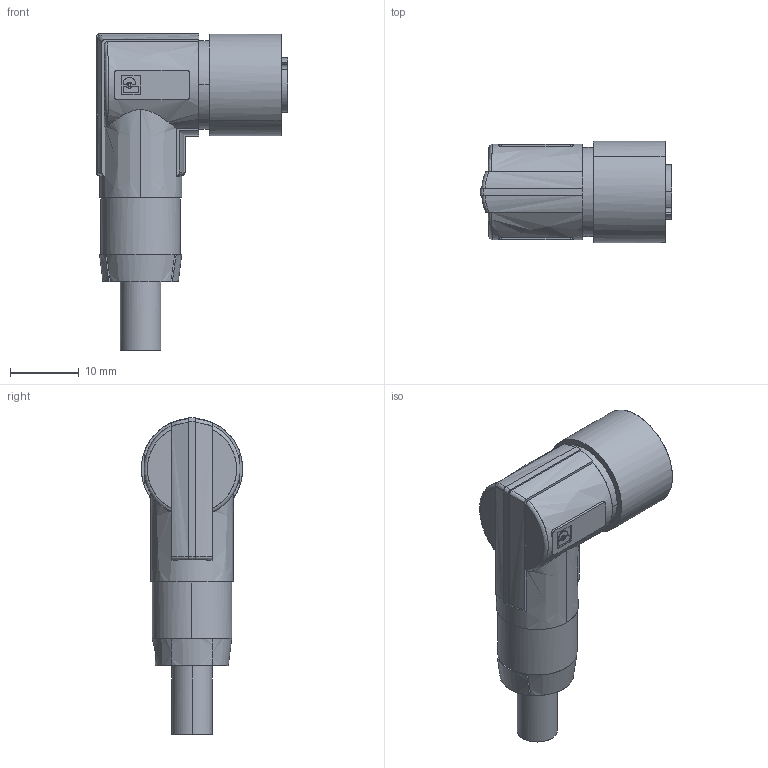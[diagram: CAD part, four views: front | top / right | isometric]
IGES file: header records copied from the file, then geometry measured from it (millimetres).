
Start section: Comment
Global section: file name: ESW 33CHxxxxG.igs; native system:  By UGS Corp.; preprocessor: XPlus GENERIC/IGES 3.0; author: Author; organization: Title; date: 20101124.083819; units: millimetre
Bounding box: 28 x 14.8 x 46.25 mm (x, y, z)
Surface area: 3308.6 mm2 (no closed solid volume)
Topology: 0 solids, 0 shells, 199 faces, 2418 edges, 2418 vertices
Faces by surface type: bspline 199
